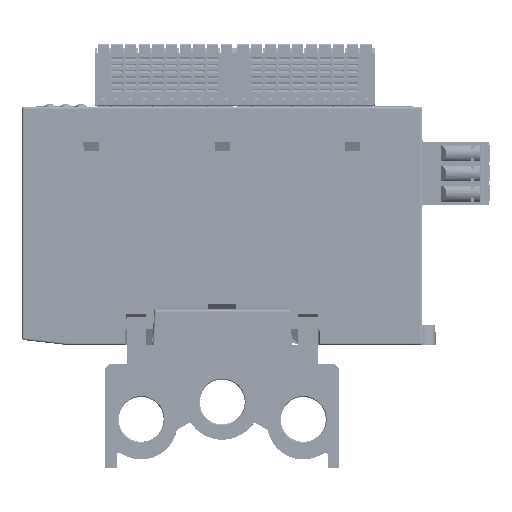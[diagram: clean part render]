
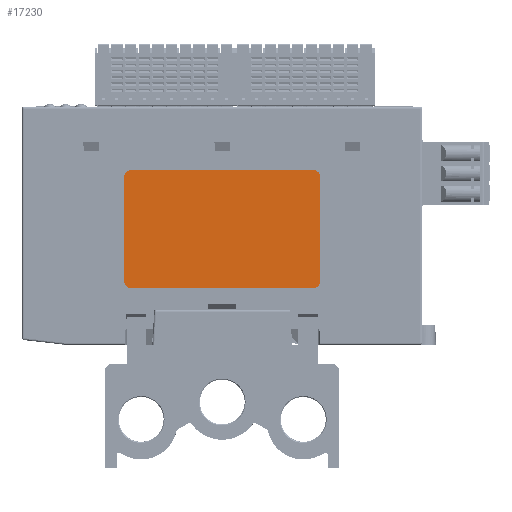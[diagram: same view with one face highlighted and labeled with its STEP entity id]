
A CAD part, front view. The second image highlights one B-rep face of the part: STEP entity #17230.
In plain terms, the highlighted planar face has unit normal (0, -1, 0).
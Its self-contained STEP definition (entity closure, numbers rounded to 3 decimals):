
#7647=FACE_OUTER_BOUND('',#72757,.T.);
#17230=ADVANCED_FACE('',(#7647),#26951,.F.);
#26951=PLANE('',#184231);
#34712=LINE('',#257591,#52913);
#34716=LINE('',#257599,#52917);
#34718=LINE('',#257603,#52919);
#34721=LINE('',#257611,#52922);
#52913=VECTOR('',#202449,1.);
#52917=VECTOR('',#202455,1.);
#52919=VECTOR('',#202459,1.);
#52922=VECTOR('',#202466,1.);
#72757=EDGE_LOOP('',(#86774,#86775,#86776,#86777,#86778,#86779,#86780,#86781));
#86774=ORIENTED_EDGE('',*,*,#154656,.F.);
#86775=ORIENTED_EDGE('',*,*,#154661,.T.);
#86776=ORIENTED_EDGE('',*,*,#154662,.F.);
#86777=ORIENTED_EDGE('',*,*,#154663,.T.);
#86778=ORIENTED_EDGE('',*,*,#154658,.F.);
#86779=ORIENTED_EDGE('',*,*,#154664,.T.);
#86780=ORIENTED_EDGE('',*,*,#154652,.F.);
#86781=ORIENTED_EDGE('',*,*,#154665,.T.);
#137086=VERTEX_POINT('',#257592);
#137087=VERTEX_POINT('',#257593);
#137088=VERTEX_POINT('',#257598);
#137089=VERTEX_POINT('',#257600);
#137090=VERTEX_POINT('',#257604);
#137091=VERTEX_POINT('',#257605);
#137092=VERTEX_POINT('',#257610);
#137093=VERTEX_POINT('',#257612);
#154652=EDGE_CURVE('',#137086,#137087,#34712,.T.);
#154656=EDGE_CURVE('',#137088,#137089,#34716,.T.);
#154658=EDGE_CURVE('',#137090,#137091,#34718,.T.);
#154661=EDGE_CURVE('',#137088,#137092,#178630,.T.);
#154662=EDGE_CURVE('',#137093,#137092,#34721,.T.);
#154663=EDGE_CURVE('',#137093,#137091,#178631,.T.);
#154664=EDGE_CURVE('',#137090,#137087,#178632,.T.);
#154665=EDGE_CURVE('',#137086,#137089,#178633,.T.);
#178630=CIRCLE('',#184227,1.8);
#178631=CIRCLE('',#184228,1.8);
#178632=CIRCLE('',#184229,1.8);
#178633=CIRCLE('',#184230,1.8);
#184227=AXIS2_PLACEMENT_3D('',#257609,#202464,#202465);
#184228=AXIS2_PLACEMENT_3D('',#257613,#202467,#202468);
#184229=AXIS2_PLACEMENT_3D('',#257614,#202469,#202470);
#184230=AXIS2_PLACEMENT_3D('',#257615,#202471,#202472);
#184231=AXIS2_PLACEMENT_3D('',#257616,#202473,#202474);
#202449=DIRECTION('',(0.,0.,-1.));
#202455=DIRECTION('',(1.,0.,0.));
#202459=DIRECTION('',(-1.,0.,0.));
#202464=DIRECTION('',(0.,-1.,0.));
#202465=DIRECTION('',(0.,0.,1.));
#202466=DIRECTION('',(0.,0.,1.));
#202467=DIRECTION('',(0.,-1.,0.));
#202468=DIRECTION('',(0.,0.,-1.));
#202469=DIRECTION('',(0.,-1.,0.));
#202470=DIRECTION('',(0.,0.,-1.));
#202471=DIRECTION('',(0.,-1.,0.));
#202472=DIRECTION('',(0.,0.,-1.));
#202473=DIRECTION('',(0.,1.,0.));
#202474=DIRECTION('',(0.,0.,-1.));
#257591=CARTESIAN_POINT('',(525.15,1597.36,34.634));
#257592=CARTESIAN_POINT('',(525.15,1597.36,47.934));
#257593=CARTESIAN_POINT('',(525.15,1597.36,21.334));
#257598=CARTESIAN_POINT('',(476.75,1597.36,49.734));
#257599=CARTESIAN_POINT('',(500.05,1597.36,49.734));
#257600=CARTESIAN_POINT('',(523.35,1597.36,49.734));
#257603=CARTESIAN_POINT('',(475.05,1597.36,19.534));
#257604=CARTESIAN_POINT('',(523.35,1597.36,19.534));
#257605=CARTESIAN_POINT('',(476.75,1597.36,19.534));
#257609=CARTESIAN_POINT('',(476.75,1597.36,47.934));
#257610=CARTESIAN_POINT('',(474.95,1597.36,47.934));
#257611=CARTESIAN_POINT('',(474.95,1597.36,34.634));
#257612=CARTESIAN_POINT('',(474.95,1597.36,21.334));
#257613=CARTESIAN_POINT('',(476.75,1597.36,21.334));
#257614=CARTESIAN_POINT('',(523.35,1597.36,21.334));
#257615=CARTESIAN_POINT('',(523.35,1597.36,47.934));
#257616=CARTESIAN_POINT('',(500.041,1597.36,23.341));
